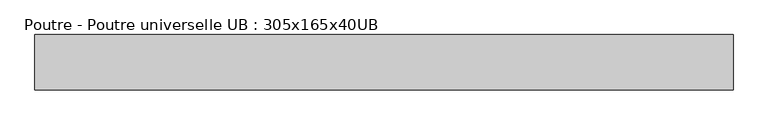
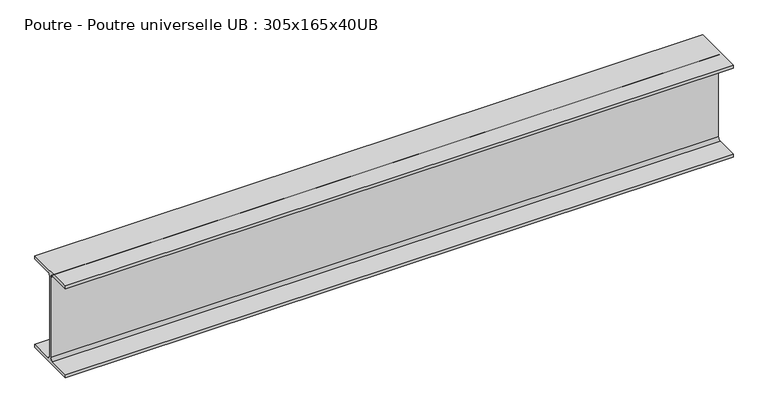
"""IFC4 building model written with IfcOpenShell, lengths in millimetres: beam geometry, Poutre - Poutre universelle UB : 305x165x40UB."""

from ifc_helpers import new_model, si_unit, point, frame, frame_2d, origin, place, context, project, spatial, polyline, circle_curve, trimmed, segment, composite_curve, outline, extrude, source, transform, mapped, element, save


def poutre_poutre_universelle_ub_305x165x40ub_e19f0741(model_context):
    return source(origin(), model_context, "Body", "SweptSolid", [
        extrude(outline(composite_curve([segment(polyline([(82.5, -141.5), (82.5, -151.7), (-82.5, -151.7), (-82.5, -141.5), (-11.9, -141.5)]), True, "CONTINUOUS"), segment(trimmed(circle_curve(frame_2d((-11.9, -132.6)), 8.9), [point((-11.9, -141.5))], [point((-3.0, -132.6))], True, "CARTESIAN"), True, "CONTINUOUS"), segment(polyline([(-3.0, -132.6), (-3.0, 132.6)]), True, "CONTINUOUS"), segment(trimmed(circle_curve(frame_2d((-11.9, 132.6)), 8.9), [point((-3.0, 132.6))], [point((-11.9, 141.5))], True, "CARTESIAN"), True, "CONTINUOUS"), segment(polyline([(-11.9, 141.5), (-82.5, 141.5), (-82.5, 151.7), (82.5, 151.7), (82.5, 141.5), (11.9, 141.5)]), True, "CONTINUOUS"), segment(trimmed(circle_curve(frame_2d((11.9, 132.6)), 8.9), [point((11.9, 141.5))], [point((3.0, 132.6))], True, "CARTESIAN"), True, "CONTINUOUS"), segment(polyline([(3.0, 132.6), (3.0, -132.6)]), True, "CONTINUOUS"), segment(trimmed(circle_curve(frame_2d((11.9, -132.6)), 8.9), [point((3.0, -132.6))], [point((11.9, -141.5))], True, "CARTESIAN"), True, "CONTINUOUS"), segment(polyline([(11.9, -141.5), (82.5, -141.5)]), True, "CONTINUOUS")], self_intersect=False)), frame((-1089.5, 0.0, 0.0), z_axis=(1.0, 0.0, 0.0), x_axis=(0.0, 1.0, 0.0)), (0.0, 0.0, 1.0), 2084.0),
    ])


if __name__ == "__main__":
    model = new_model("IFC4")
    model_context = context("Model", 3, world=origin())
    ifc_project = project(units=[si_unit("LENGTHUNIT", "METRE", prefix="MILLI")], contexts=[model_context])
    site = spatial("IfcSite", under=ifc_project)
    building = spatial("IfcBuilding", under=site)
    placement = place(None, origin())
    poutre_poutre_universelle_ub_305x165x40ub_shape = poutre_poutre_universelle_ub_305x165x40ub_e19f0741(model_context)
    element("IfcBeam", 1, ObjectType="Poutre - Poutre universelle UB : 305x165x40UB", at=placement, inside=building, context=model_context, shape_type="MappedRepresentation", body=[
        mapped(poutre_poutre_universelle_ub_305x165x40ub_shape, transform((0.0, 0.0, 0.0), x_axis=(1.0, 0.0, 0.0), y_axis=(0.0, 1.0, 0.0), z_axis=(0.0, 0.0, 1.0))),
    ])
    save(model, "model.ifc")
